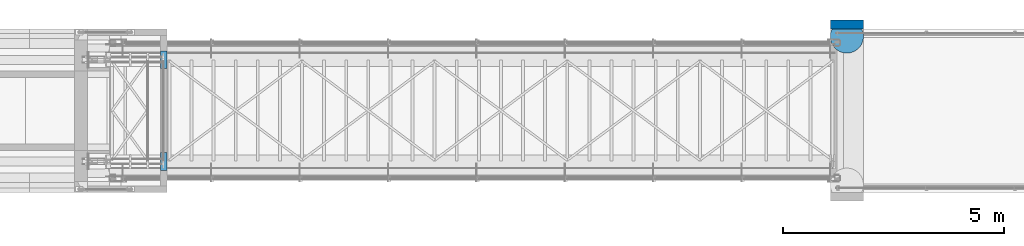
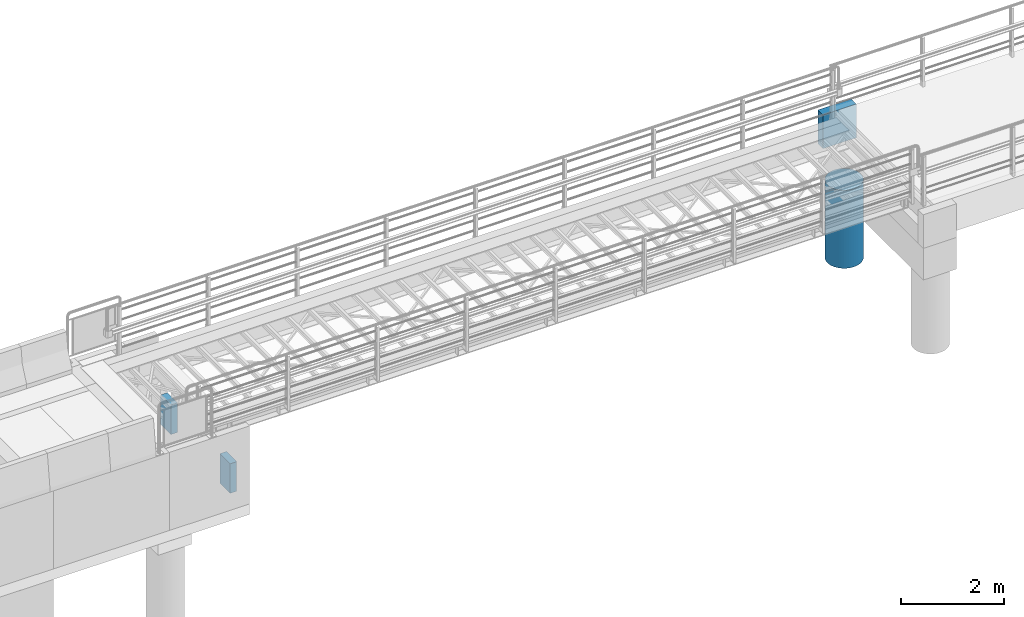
# One storey, part 31 of 31: 4 walls.
"""IFC2X3 building model written with IfcOpenShell, lengths in millimetres."""

from ifc_helpers import new_model, si_unit, frame, origin_with_axes, place, context, subcontext, project, spatial, faceted_brep, material, type_object, element, save


model = new_model("IFC2X3")

# Units and contexts
model_context = context("Model", 3, precision=1e-05, world=origin_with_axes())
body_context = subcontext(model_context, "Body", "Model", "MODEL_VIEW")
ifc_project = project(units=[si_unit("LENGTHUNIT", "METRE", prefix="MILLI"), si_unit("AREAUNIT", "SQUARE_METRE"), si_unit("VOLUMEUNIT", "CUBIC_METRE"), si_unit("MASSUNIT", "GRAM", prefix="KILO"), si_unit("TIMEUNIT", "SECOND"), si_unit("PLANEANGLEUNIT", "RADIAN"), si_unit("SOLIDANGLEUNIT", "STERADIAN"), si_unit("THERMODYNAMICTEMPERATUREUNIT", "DEGREE_CELSIUS"), si_unit("LUMINOUSINTENSITYUNIT", "LUMEN")], contexts=[model_context])

# Site, building, storey
site_placement = place(None, origin_with_axes())
site = spatial("IfcSite", under=ifc_project, at=site_placement, Name="Undefined", CompositionType="ELEMENT")
building_placement = place(site_placement, origin_with_axes())
building = spatial("IfcBuilding", under=site, at=building_placement, Name="Undefined", CompositionType="ELEMENT")
storey_placement = place(building_placement, origin_with_axes())
storey = spatial("IfcBuildingStorey", under=building, at=storey_placement, Name="Undefined", CompositionType="ELEMENT", Elevation=0.0)

# Walls
ifc_material = material(Name="CONCRETE/B35")
wall_type_1 = type_object("IfcWallType", Name="D750", PredefinedType="NOTDEFINED")
wall_1_placement = place(storey_placement, frame((19775.0, 2825.0, -1670.0), z_axis=(-1.0, 0.0, 0.0), x_axis=(0.0, 0.0, -1.0)))
element("IfcWall", 1, at=wall_1_placement, inside=storey, type_object=wall_type_1, material=ifc_material, Name="PLASSTØPTVEGG", context=body_context, shape_type="Brep", body=[
    faceted_brep([(0.0, -375.0, 0.0), (0.0, -371.791823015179, -48.9473220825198), (1850.0, -371.791823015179, -48.9473220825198), (1850.0, -375.0, 0.0), (0.0, -362.2221848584, -97.0571419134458), (1850.0, -362.2221848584, -97.0571419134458), (0.0, -346.454824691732, -143.506287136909), (1850.0, -346.454824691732, -143.506287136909), (0.0, -324.759526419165, -187.5), (1850.0, -324.759526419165, -187.5), (0.0, -297.507502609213, -228.28553587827), (1850.0, -297.507502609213, -228.28553587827), (0.0, -265.165042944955, -265.165042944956), (1850.0, -265.165042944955, -265.165042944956), (0.0, -228.28553587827, -297.507502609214), (1850.0, -228.28553587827, -297.507502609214), (0.0, -187.5, -324.759526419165), (1850.0, -187.5, -324.759526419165), (0.0, -143.506287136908, -346.454824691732), (1850.0, -143.506287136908, -346.454824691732), (0.0, -97.0571419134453, -362.222184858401), (1850.0, -97.0571419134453, -362.222184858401), (0.0, -48.9473220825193, -371.791823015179), (1850.0, -48.9473220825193, -371.791823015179), (0.0, 0.0, -375.0), (1850.0, 0.0, -375.0), (0.0, 48.9473220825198, -371.791823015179), (1850.0, 48.9473220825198, -371.791823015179), (0.0, 97.0571419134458, -362.2221848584), (1850.0, 97.0571419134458, -362.2221848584), (0.0, 143.506287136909, -346.454824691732), (1850.0, 143.506287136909, -346.454824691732), (0.0, 187.5, -324.759526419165), (1850.0, 187.5, -324.759526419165), (0.0, 228.28553587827, -297.507502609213), (1850.0, 228.28553587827, -297.507502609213), (0.0, 265.165042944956, -265.165042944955), (1850.0, 265.165042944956, -265.165042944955), (0.0, 297.507502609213, -228.28553587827), (1850.0, 297.507502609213, -228.28553587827), (0.0, 324.759526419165, -187.5), (1850.0, 324.759526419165, -187.5), (0.0, 346.454824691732, -143.506287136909), (1850.0, 346.454824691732, -143.506287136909), (0.0, 362.222184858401, -97.0571419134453), (1850.0, 362.222184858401, -97.0571419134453), (0.0, 371.791823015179, -48.9473220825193), (1850.0, 371.791823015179, -48.9473220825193), (0.0, 375.0, 0.0), (1850.0, 375.0, 0.0), (0.0, 371.791823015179, 48.9473220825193), (1850.0, 371.791823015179, 48.9473220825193), (0.0, 362.2221848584, 97.0571419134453), (1850.0, 362.2221848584, 97.0571419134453), (0.0, 346.454824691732, 143.506287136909), (1850.0, 346.454824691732, 143.506287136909), (0.0, 324.759526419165, 187.5), (1850.0, 324.759526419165, 187.5), (0.0, 297.507502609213, 228.28553587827), (1850.0, 297.507502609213, 228.28553587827), (0.0, 265.165042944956, 265.165042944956), (1850.0, 265.165042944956, 265.165042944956), (0.0, 228.28553587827, 297.507502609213), (1850.0, 228.28553587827, 297.507502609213), (0.0, 187.5, 324.759526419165), (1850.0, 187.5, 324.759526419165), (0.0, 143.506287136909, 346.454824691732), (1850.0, 143.506287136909, 346.454824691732), (0.0, 97.0571419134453, 362.2221848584), (1850.0, 97.0571419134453, 362.2221848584), (0.0, 48.9473220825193, 371.791823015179), (1850.0, 48.9473220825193, 371.791823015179), (0.0, 0.0, 375.0), (1850.0, 0.0, 375.0), (0.0, -48.9473220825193, 371.791823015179), (1850.0, -48.9473220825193, 371.791823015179), (0.0, -97.0571419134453, 362.2221848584), (1850.0, -97.0571419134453, 362.2221848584), (0.0, -143.506287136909, 346.454824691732), (1850.0, -143.506287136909, 346.454824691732), (0.0, -187.5, 324.759526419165), (1850.0, -187.5, 324.759526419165), (0.0, -228.28553587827, 297.507502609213), (1850.0, -228.28553587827, 297.507502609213), (0.0, -265.165042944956, 265.165042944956), (1850.0, -265.165042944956, 265.165042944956), (0.0, -297.507502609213, 228.28553587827), (1850.0, -297.507502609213, 228.28553587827), (0.0, -324.759526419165, 187.5), (1850.0, -324.759526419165, 187.5), (0.0, -346.454824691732, 143.506287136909), (1850.0, -346.454824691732, 143.506287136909), (0.0, -362.2221848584, 97.0571419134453), (1850.0, -362.2221848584, 97.0571419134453), (0.0, -371.791823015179, 48.9473220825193), (1850.0, -371.791823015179, 48.9473220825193)], [[[0, 1, 2, 3]], [[1, 4, 5, 2]], [[4, 6, 7, 5]], [[6, 8, 9, 7]], [[8, 10, 11, 9]], [[10, 12, 13, 11]], [[12, 14, 15, 13]], [[14, 16, 17, 15]], [[16, 18, 19, 17]], [[18, 20, 21, 19]], [[20, 22, 23, 21]], [[22, 24, 25, 23]], [[24, 26, 27, 25]], [[26, 28, 29, 27]], [[28, 30, 31, 29]], [[30, 32, 33, 31]], [[32, 34, 35, 33]], [[34, 36, 37, 35]], [[36, 38, 39, 37]], [[38, 40, 41, 39]], [[40, 42, 43, 41]], [[42, 44, 45, 43]], [[44, 46, 47, 45]], [[46, 48, 49, 47]], [[48, 50, 51, 49]], [[50, 52, 53, 51]], [[52, 54, 55, 53]], [[54, 56, 57, 55]], [[56, 58, 59, 57]], [[58, 60, 61, 59]], [[60, 62, 63, 61]], [[62, 64, 65, 63]], [[64, 66, 67, 65]], [[66, 68, 69, 67]], [[68, 70, 71, 69]], [[70, 72, 73, 71]], [[72, 74, 75, 73]], [[74, 76, 77, 75]], [[76, 78, 79, 77]], [[78, 80, 81, 79]], [[80, 82, 83, 81]], [[82, 84, 85, 83]], [[84, 86, 87, 85]], [[86, 88, 89, 87]], [[88, 90, 91, 89]], [[90, 92, 93, 91]], [[92, 94, 95, 93]], [[94, 0, 3, 95]], [[5, 7, 9, 11, 13, 15, 17, 19, 21, 23, 25, 27, 29, 31, 33, 35, 37, 39, 41, 43, 45, 47, 49, 51, 53, 55, 57, 59, 61, 63, 65, 67, 69, 71, 73, 75, 77, 79, 81, 83, 85, 87, 89, 91, 93, 95, 3, 2]], [[94, 92, 90, 88, 86, 84, 82, 80, 78, 76, 74, 72, 70, 68, 66, 64, 62, 60, 58, 56, 54, 52, 50, 48, 46, 44, 42, 40, 38, 36, 34, 32, 30, 28, 26, 24, 22, 20, 18, 16, 14, 12, 10, 8, 6, 4, 1, 0]]]),
])
wall_type_2 = type_object("IfcWallType", Name="800*200", PredefinedType="NOTDEFINED")
wall_2_placement = place(storey_placement, frame((20150.0, 3100.0, -521.0), z_axis=(0.0, 0.0, 1.0), x_axis=(-1.0, 0.0, 0.0)))
element("IfcWall", 2, at=wall_2_placement, inside=storey, type_object=wall_type_2, material=ifc_material, Name="PLASSTØPTVEGG", context=body_context, shape_type="Brep", body=[
    faceted_brep([(0.0, 100.0, -400.0), (0.0, 100.0, 400.0), (750.0, 100.0, 400.0), (750.0, 100.0, -400.0), (0.0, -100.0, 400.0), (750.0, -100.0, 400.0), (0.0, -100.0, -400.0), (750.0, -100.0, -400.0)], [[[0, 1, 2, 3]], [[1, 4, 5, 2]], [[4, 6, 7, 5]], [[6, 0, 3, 7]], [[5, 7, 3, 2]], [[6, 4, 1, 0]]]),
])
wall_type_3 = type_object("IfcWallType", Name="700*150", PredefinedType="NOTDEFINED")
for number, where, z_axis, x_axis in (
    (3, (4325.0, 200.0, -1500.0), (0.0, 0.0, 1.0), (0.0, -1.0, 0.0)),
    (4, (4325.0, 2500.0, -1500.0), (0.0, 0.0, 1.0), (0.0, -1.0, 0.0)),
):
    element("IfcWall", number, at=place(storey_placement, frame(where, z_axis=z_axis, x_axis=x_axis)), inside=storey, type_object=wall_type_3, material=ifc_material, Name="PLASSTØPTVEGG", context=body_context, shape_type="Brep", body=[
        faceted_brep([(0.0, 75.0, -350.0), (0.0, 75.0, 350.0), (400.0, 75.0, 350.0), (400.0, 75.0, -350.0), (0.0, -75.0, 350.0), (400.0, -75.0, 350.0), (0.0, -75.0, -350.0), (400.0, -75.0, -350.0)], [[[0, 1, 2, 3]], [[1, 4, 5, 2]], [[4, 6, 7, 5]], [[6, 0, 3, 7]], [[5, 7, 3, 2]], [[6, 4, 1, 0]]]),
    ])

save(model, "model.ifc")
